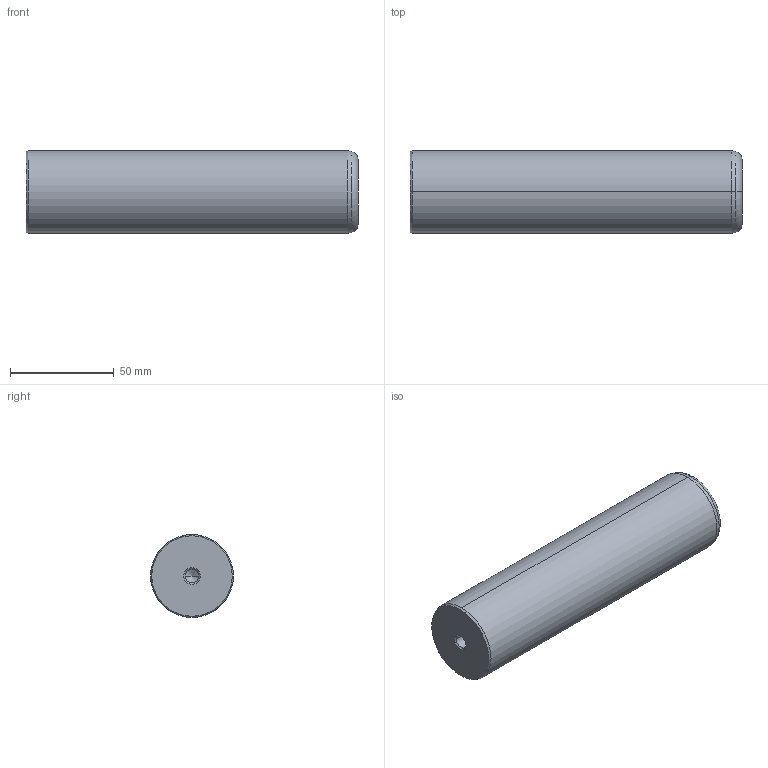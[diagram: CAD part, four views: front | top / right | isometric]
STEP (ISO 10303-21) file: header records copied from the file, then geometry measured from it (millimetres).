
FILE_DESCRIPTION(('CATIA V5 STEP Exchange'),'2;1');
FILE_NAME('C:\Users\Utente\Desktop\IO LAVORO\3D X SITO CF\X SITO\720\720-40x160.stp','2020-12-30T22:01:38+00:00',('none'),('none'),'CATIA Version 5 Release 20 GA (IN-10)','CATIA V5 STEP AP203','none');
FILE_SCHEMA(('CONFIG_CONTROL_DESIGN'));
Length unit declared in the file: millimetre
Products named in the file (1): 720-40x160
Bounding box: 160 x 40 x 40 mm (x, y, z)
Volume: 198688.2 mm3; surface area: 23290.3 mm2
Topology: 1 solids, 1 shells, 22 faces, 56 edges, 34 vertices
Faces by surface type: cone 12, cylinder 6, plane 2, torus 2
Entity records: 755 total; most frequent: CARTESIAN_POINT 216, ORIENTED_EDGE 104, DIRECTION 89, EDGE_CURVE 52, AXIS2_PLACEMENT_3D 50, VERTEX_POINT 34, CIRCLE 27, EDGE_LOOP 24
